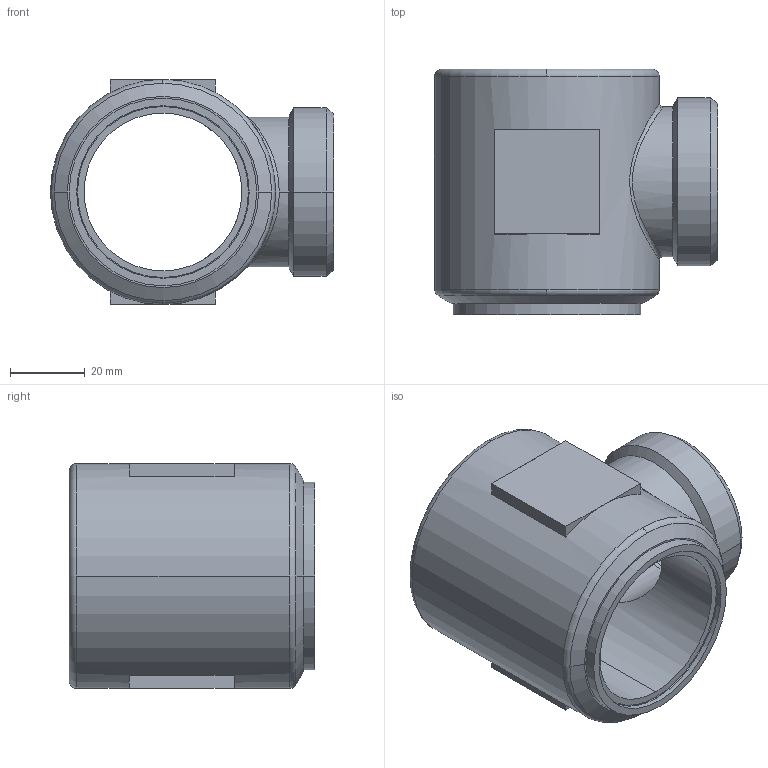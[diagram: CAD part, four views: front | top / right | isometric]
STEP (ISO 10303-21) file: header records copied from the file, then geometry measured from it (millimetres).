
FILE_DESCRIPTION((''),'2;1');
FILE_NAME('101312.stp','2007-10-30T15:40:30',(''),(''),'AutoCAD STEP 2000i','AutoCAD 2000i',', , ');
FILE_SCHEMA(('CONFIG_CONTROL_DESIGN'));
Length unit declared in the file: millimetre
Products named in the file (2): 101312.0; 1094#0
Assembly tree (1 placements, depth 2):
  101312.0
    1094#0
Bounding box: 75.5 x 65.5 x 60 mm (x, y, z)
Volume: 95077.2 mm3; surface area: 27642.2 mm2
Topology: 1 solids, 1 shells, 55 faces, 134 edges, 86 vertices
Faces by surface type: plane 20, cylinder 16, cone 10, bspline 5, torus 4
Entity records: 2186 total; most frequent: CARTESIAN_POINT 741, DIRECTION 303, ORIENTED_EDGE 268, EDGE_CURVE 134, AXIS2_PLACEMENT_3D 126, VERTEX_POINT 86, CIRCLE 74, EDGE_LOOP 64
